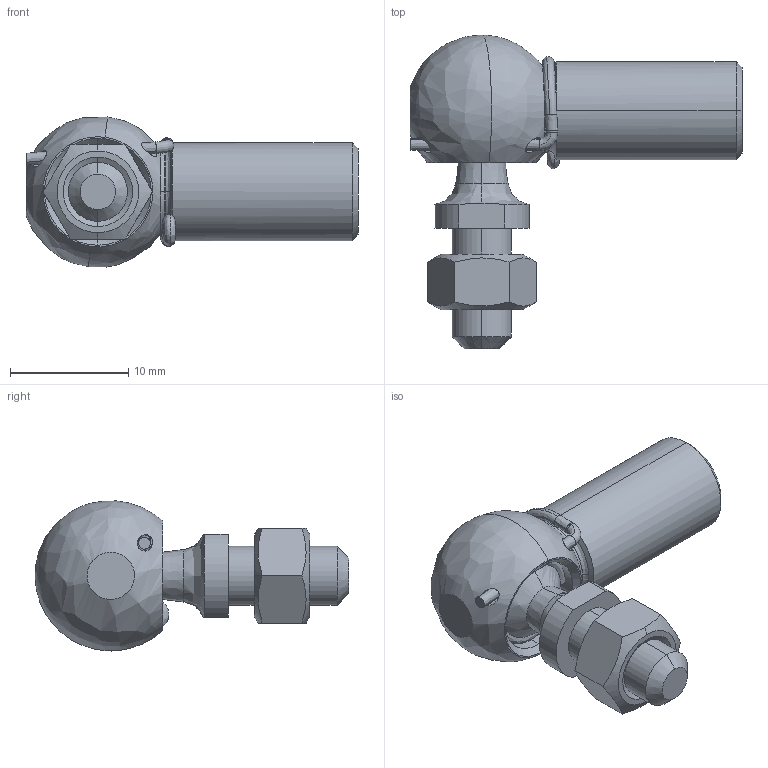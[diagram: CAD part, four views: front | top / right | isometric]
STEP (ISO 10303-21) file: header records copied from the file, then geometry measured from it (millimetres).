
FILE_DESCRIPTION (( 'STEP AP214' ), '1' );
FILE_NAME ('13.CS8M5.STEP', '2017-10-28T09:37:55', ( '' ), ( '' ), 'SwSTEP 2.0', 'SolidWorks 2016', '' );
FILE_SCHEMA (( 'AUTOMOTIVE_DESIGN' ));
Length unit declared in the file: millimetre
Products named in the file (1): 13.CS8M5
Bounding box: 28.08 x 26.53 x 12.69 mm (x, y, z)
Volume: 2036.1 mm3; surface area: 2078.3 mm2
Topology: 1 solids, 1 shells, 106 faces, 317 edges, 203 vertices
Faces by surface type: bspline 39, cone 23, plane 23, cylinder 21
Entity records: 5234 total; most frequent: CARTESIAN_POINT 2704, ORIENTED_EDGE 614, DIRECTION 429, EDGE_CURVE 307, VERTEX_POINT 203, AXIS2_PLACEMENT_3D 183, EDGE_LOOP 118, CIRCLE 115
